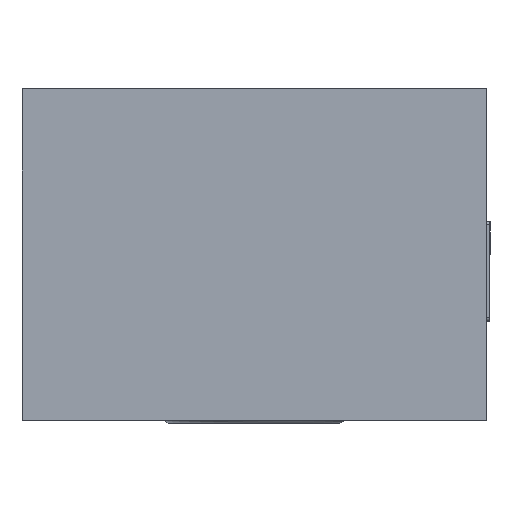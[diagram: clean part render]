
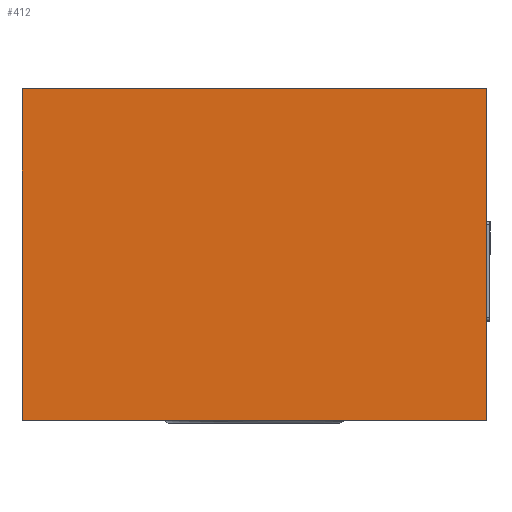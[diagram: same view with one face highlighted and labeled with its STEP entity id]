
A CAD part, left-side view. The second image highlights one B-rep face of the part: STEP entity #412.
In plain terms, the highlighted planar face has unit normal (-1, 0, 0).
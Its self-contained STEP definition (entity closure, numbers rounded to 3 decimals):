
#98=FACE_OUTER_BOUND('',#665,.T.);
#134=PLANE('',#1403);
#180=LINE('',#2062,#243);
#182=LINE('',#2068,#245);
#183=LINE('',#2070,#246);
#184=LINE('',#2072,#247);
#243=VECTOR('',#1588,1.);
#245=VECTOR('',#1594,1.);
#246=VECTOR('',#1597,1.);
#247=VECTOR('',#1598,1.);
#412=ADVANCED_FACE('',(#98),#134,.T.);
#665=EDGE_LOOP('',(#834,#835,#836,#837));
#834=ORIENTED_EDGE('',*,*,#1256,.F.);
#835=ORIENTED_EDGE('',*,*,#1255,.F.);
#836=ORIENTED_EDGE('',*,*,#1252,.T.);
#837=ORIENTED_EDGE('',*,*,#1257,.T.);
#1125=VERTEX_POINT('',#2059);
#1126=VERTEX_POINT('',#2061);
#1128=VERTEX_POINT('',#2067);
#1129=VERTEX_POINT('',#2071);
#1252=EDGE_CURVE('',#1125,#1126,#180,.T.);
#1255=EDGE_CURVE('',#1125,#1128,#182,.T.);
#1256=EDGE_CURVE('',#1128,#1129,#183,.T.);
#1257=EDGE_CURVE('',#1126,#1129,#184,.T.);
#1403=AXIS2_PLACEMENT_3D('',#2073,#1599,#1600);
#1588=DIRECTION('',(0.,-1.,0.));
#1594=DIRECTION('',(0.,0.,1.));
#1597=DIRECTION('',(0.,-1.,0.));
#1598=DIRECTION('',(0.,0.,1.));
#1599=DIRECTION('',(-1.,0.,0.));
#1600=DIRECTION('',(0.,0.,-1.));
#2059=CARTESIAN_POINT('',(2511.584,496.129,0.));
#2061=CARTESIAN_POINT('',(2511.584,356.129,0.));
#2062=CARTESIAN_POINT('',(2511.584,496.129,0.));
#2067=CARTESIAN_POINT('',(2511.584,496.129,100.));
#2068=CARTESIAN_POINT('',(2511.584,496.129,0.));
#2070=CARTESIAN_POINT('',(2511.584,496.129,100.));
#2071=CARTESIAN_POINT('',(2511.584,356.129,100.));
#2072=CARTESIAN_POINT('',(2511.584,356.129,0.));
#2073=CARTESIAN_POINT('',(2511.584,496.129,0.));
